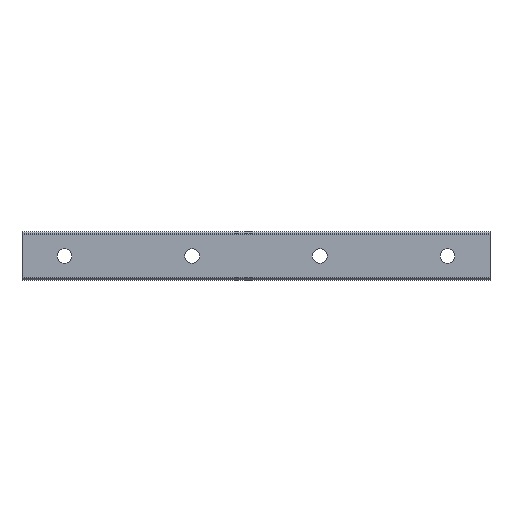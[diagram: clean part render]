
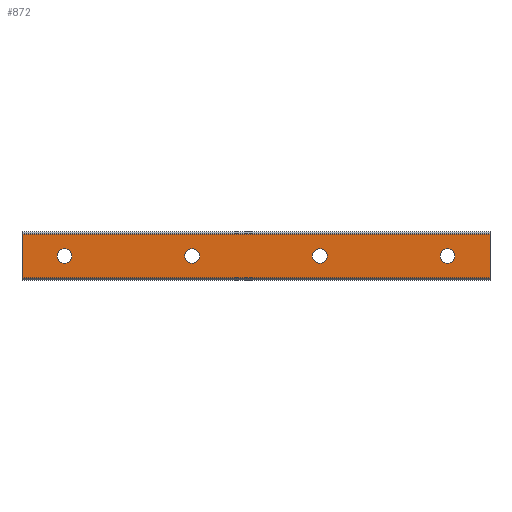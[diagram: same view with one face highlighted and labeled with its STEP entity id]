
A CAD part, front view. The second image highlights one B-rep face of the part: STEP entity #872.
In plain terms, the highlighted planar face has unit normal (0, -1, 0).
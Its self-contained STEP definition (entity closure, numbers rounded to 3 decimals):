
#36=CIRCLE('',#952,3.5);
#37=CIRCLE('',#953,3.5);
#38=CIRCLE('',#954,3.5);
#39=CIRCLE('',#955,3.5);
#166=ORIENTED_EDGE('',*,*,#401,.F.);
#167=ORIENTED_EDGE('',*,*,#402,.F.);
#168=ORIENTED_EDGE('',*,*,#403,.F.);
#169=ORIENTED_EDGE('',*,*,#404,.F.);
#170=ORIENTED_EDGE('',*,*,#405,.T.);
#171=ORIENTED_EDGE('',*,*,#406,.F.);
#172=ORIENTED_EDGE('',*,*,#407,.F.);
#173=ORIENTED_EDGE('',*,*,#399,.T.);
#399=EDGE_CURVE('',#511,#510,#596,.T.);
#401=EDGE_CURVE('',#512,#512,#36,.T.);
#402=EDGE_CURVE('',#513,#513,#37,.T.);
#403=EDGE_CURVE('',#514,#514,#38,.T.);
#404=EDGE_CURVE('',#515,#515,#39,.T.);
#405=EDGE_CURVE('',#510,#516,#597,.T.);
#406=EDGE_CURVE('',#517,#516,#598,.T.);
#407=EDGE_CURVE('',#511,#517,#599,.T.);
#510=VERTEX_POINT('',#1401);
#511=VERTEX_POINT('',#1403);
#512=VERTEX_POINT('',#1407);
#513=VERTEX_POINT('',#1409);
#514=VERTEX_POINT('',#1411);
#515=VERTEX_POINT('',#1413);
#516=VERTEX_POINT('',#1415);
#517=VERTEX_POINT('',#1417);
#596=LINE('',#1402,#660);
#597=LINE('',#1414,#661);
#598=LINE('',#1416,#662);
#599=LINE('',#1418,#663);
#660=VECTOR('',#1117,1000.);
#661=VECTOR('',#1130,1000.);
#662=VECTOR('',#1131,1000.);
#663=VECTOR('',#1132,1000.);
#712=EDGE_LOOP('',(#166));
#713=EDGE_LOOP('',(#167));
#714=EDGE_LOOP('',(#168));
#715=EDGE_LOOP('',(#169));
#716=EDGE_LOOP('',(#170,#171,#172,#173));
#782=FACE_BOUND('',#712,.T.);
#783=FACE_BOUND('',#713,.T.);
#784=FACE_BOUND('',#714,.T.);
#785=FACE_BOUND('',#715,.T.);
#786=FACE_BOUND('',#716,.T.);
#844=PLANE('',#951);
#872=ADVANCED_FACE('',(#782,#783,#784,#785,#786),#844,.F.);
#951=AXIS2_PLACEMENT_3D('',#1405,#1120,#1121);
#952=AXIS2_PLACEMENT_3D('',#1406,#1122,#1123);
#953=AXIS2_PLACEMENT_3D('',#1408,#1124,#1125);
#954=AXIS2_PLACEMENT_3D('',#1410,#1126,#1127);
#955=AXIS2_PLACEMENT_3D('',#1412,#1128,#1129);
#1117=DIRECTION('',(-1.,0.,0.));
#1120=DIRECTION('',(0.,1.,0.));
#1121=DIRECTION('',(0.,0.,1.));
#1122=DIRECTION('',(0.,-1.,0.));
#1123=DIRECTION('',(0.,0.,-1.));
#1124=DIRECTION('',(0.,-1.,0.));
#1125=DIRECTION('',(0.,0.,-1.));
#1126=DIRECTION('',(0.,-1.,0.));
#1127=DIRECTION('',(0.,0.,-1.));
#1128=DIRECTION('',(0.,-1.,0.));
#1129=DIRECTION('',(0.,0.,-1.));
#1130=DIRECTION('',(0.,0.,-1.));
#1131=DIRECTION('',(-1.,0.,0.));
#1132=DIRECTION('',(0.,0.,-1.));
#1401=CARTESIAN_POINT('',(-20.,0.,10.286));
#1402=CARTESIAN_POINT('',(200.,0.,10.286));
#1403=CARTESIAN_POINT('',(200.,0.,10.286));
#1405=CARTESIAN_POINT('',(200.,0.,10.286));
#1406=CARTESIAN_POINT('',(60.,0.,0.));
#1407=CARTESIAN_POINT('',(60.,0.,-3.5));
#1408=CARTESIAN_POINT('',(120.,0.,0.));
#1409=CARTESIAN_POINT('',(120.,0.,-3.5));
#1410=CARTESIAN_POINT('',(180.,0.,0.));
#1411=CARTESIAN_POINT('',(180.,0.,-3.5));
#1412=CARTESIAN_POINT('',(0.,0.,0.));
#1413=CARTESIAN_POINT('',(0.,0.,-3.5));
#1414=CARTESIAN_POINT('',(-20.,0.,10.286));
#1415=CARTESIAN_POINT('',(-20.,0.,-10.286));
#1416=CARTESIAN_POINT('',(200.,0.,-10.286));
#1417=CARTESIAN_POINT('',(200.,0.,-10.286));
#1418=CARTESIAN_POINT('',(200.,0.,10.286));
